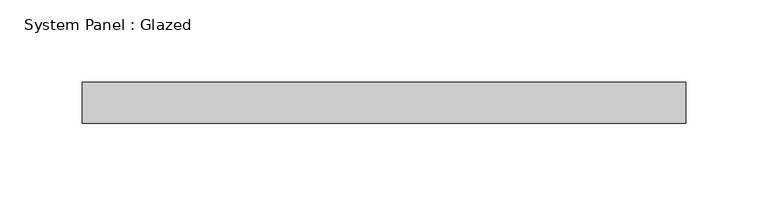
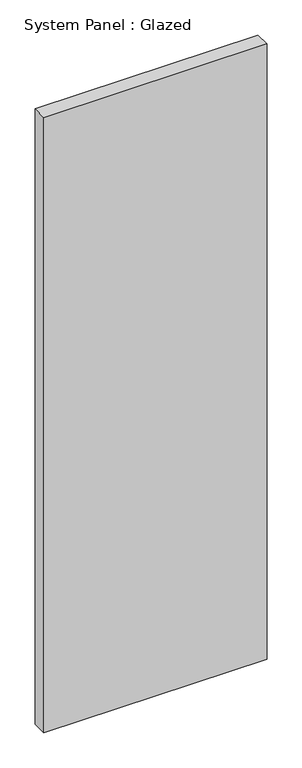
"""IFC4 building model written with IfcOpenShell, lengths in millimetres: plate geometry, System Panel : Glazed."""

from ifc_helpers import new_model, si_unit, origin, origin_with_axes, place, context, project, spatial, polyline, outline, extrude, source, transform, mapped, element, save


def system_panel_glazed_d546440a(model_context):
    return source(origin(), model_context, "Body", "SweptSolid", [
        extrude(outline(polyline([(183.5786438, -12.5), (-183.5786438, -12.5), (-183.5786438, 12.5), (183.5786438, 12.5), (183.5786438, -12.5)])), origin_with_axes(), (0.0, 0.0, 1.0), 1070.0),
    ])


if __name__ == "__main__":
    model = new_model("IFC4")
    model_context = context("Model", 3, world=origin())
    ifc_project = project(units=[si_unit("LENGTHUNIT", "METRE", prefix="MILLI")], contexts=[model_context])
    site = spatial("IfcSite", under=ifc_project)
    building = spatial("IfcBuilding", under=site)
    placement = place(None, origin())
    system_panel_glazed_shape = system_panel_glazed_d546440a(model_context)
    element("IfcPlate", 1, ObjectType="System Panel : Glazed", at=placement, inside=building, context=model_context, shape_type="MappedRepresentation", body=[
        mapped(system_panel_glazed_shape, transform((0.0, 0.0, 0.0), x_axis=(1.0, 0.0, 0.0), y_axis=(0.0, 1.0, 0.0), z_axis=(0.0, 0.0, 1.0))),
    ])
    save(model, "model.ifc")
